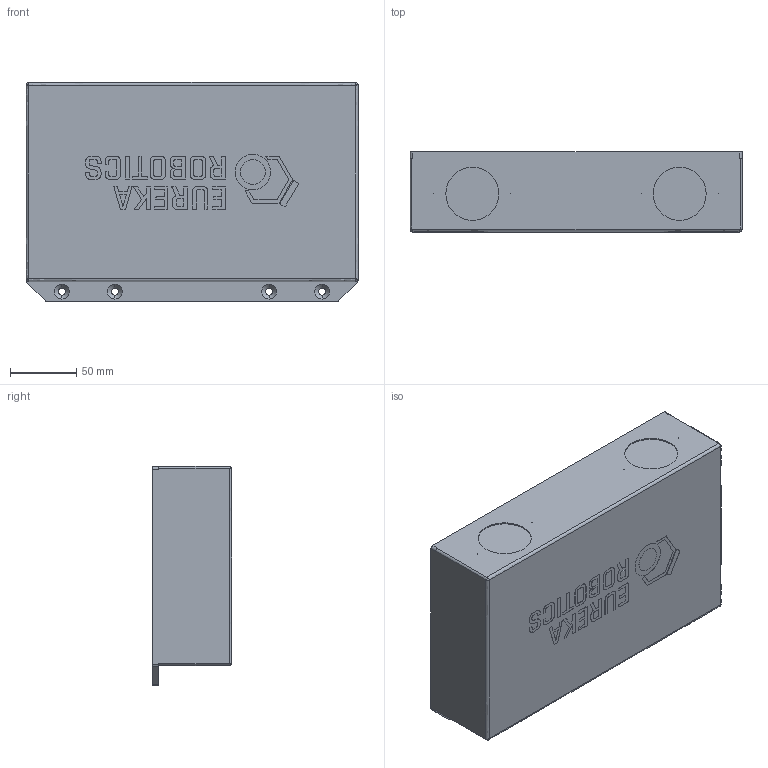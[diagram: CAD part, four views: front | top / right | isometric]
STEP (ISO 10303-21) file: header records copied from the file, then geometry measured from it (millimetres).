
FILE_DESCRIPTION(/* description */ ('STEP AP242','CAx-IF Rec.Pracs.---Representation and Presentation of Product Manufacturing Information (PMI)---4.0---2014-10-13','CAx-IF Rec.Pracs.---3D Tessellated Geometry---0.4---2014-09-14','2;1'),/* implementation_level */ '2;1');
FILE_NAME(/* name */ '[Part for DAE export - simplified]3D CAMERA GEN 2 - Part 1',/* time_stamp */ '2024-09-10T13:27:07Z',/* author */ (''),/* organization */ (''),/* preprocessor_version */ 'ST-DEVELOPER v20',/* originating_system */ ' ',/* authorisation */ ' ');
FILE_SCHEMA (('AP242_MANAGED_MODEL_BASED_3D_ENGINEERING_MIM_LF { 1 0 10303 442 1 1 4 }'));
Length unit declared in the file: metre
Products named in the file (1): Part 1
Bounding box: 250 x 60 x 165 mm (x, y, z)
Volume: 2253423.8 mm3; surface area: 134272.8 mm2
Topology: 1 solids, 1 shells, 532 faces, 1408 edges, 936 vertices
Faces by surface type: bspline 532
Entity records: 18600 total; most frequent: CARTESIAN_POINT 6705, ORIENTED_EDGE 2816, DIRECTION 1820, EDGE_CURVE 1408, VERTEX_POINT 936, LINE 910, VECTOR 910, EDGE_LOOP 598
